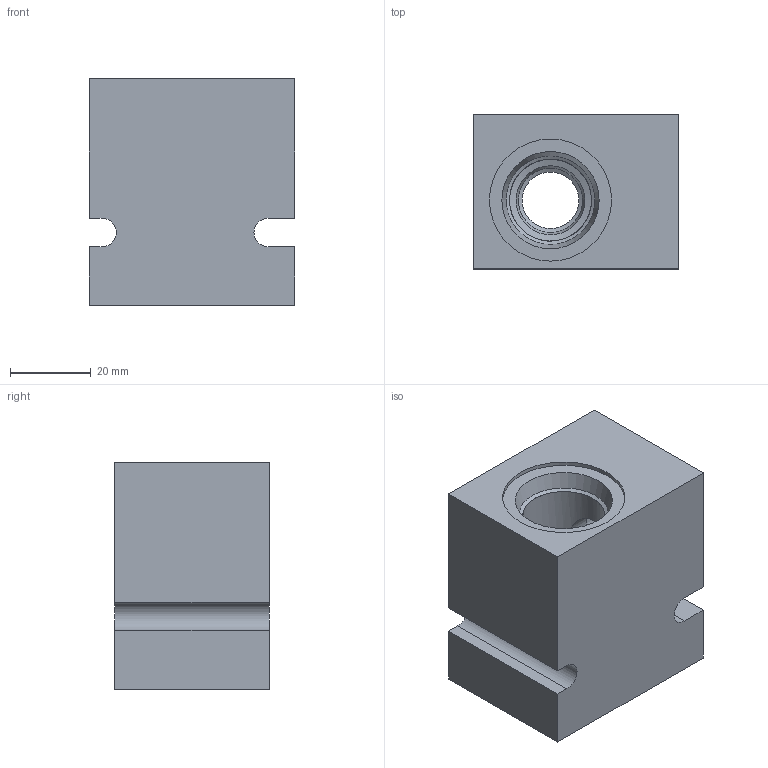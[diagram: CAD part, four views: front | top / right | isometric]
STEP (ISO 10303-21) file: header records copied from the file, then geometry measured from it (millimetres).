
FILE_DESCRIPTION( ( 'Unknown' ), '1' );
FILE_NAME( 'G:/Graphic Design/Graphic Design 2/Data Sheets/Delta Bodies/DRAWINGS/B-DDEB2.stp', 'Unknown', ( 'Unknown' ), ( 'Unknown' ), 'PSStep 16.0.42', 'Unknown', ' ' );
FILE_SCHEMA( ( 'AUTOMOTIVE_DESIGN { 1 0 10303 214 1 1 1 1 }' ) );
Length unit declared in the file: millimetre
Products named in the file (2): Assem1; B-DDEB2
Assembly tree (1 placements, depth 2):
  Assem1
    B-DDEB2
Bounding box: 50.8 x 38.1 x 56 mm (x, y, z)
Surface area: 18139.1 mm2 (no closed solid volume)
Topology: 0 solids, 80 shells, 80 faces, 391 edges, 369 vertices
Faces by surface type: plane 56, cylinder 17, cone 7
Full cylindrical faces by diameter (mm): 0.2 x2, 12 x1, 14 x1, 14.95 x2, 15 x2, 15.9 x1, 17.043 x1, 20.262 x2, 24.2 x2, 30.175 x1
Entity records: 4300 total; most frequent: CARTESIAN_POINT 1108, DIRECTION 430, ORIENTED_EDGE 354, EDGE_CURVE 354, VERTEX_POINT 354, B_SPLINE_CURVE_WITH_KNOTS 152, AXIS2_PLACEMENT_3D 146, LINE 138
